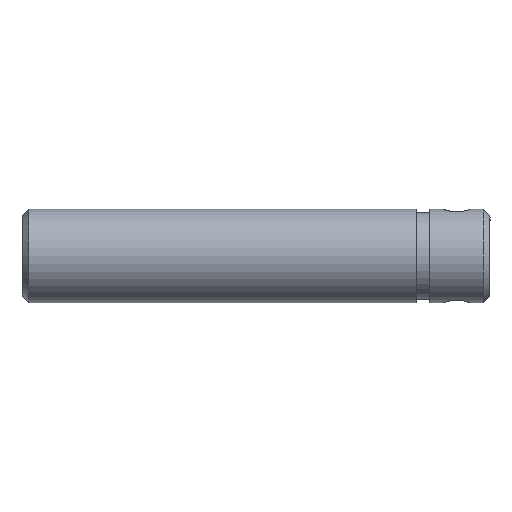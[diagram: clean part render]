
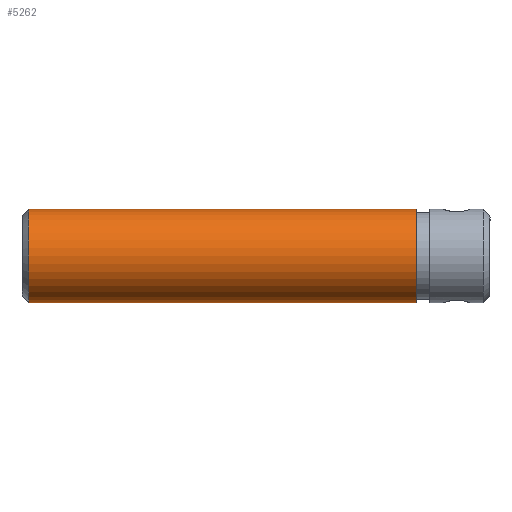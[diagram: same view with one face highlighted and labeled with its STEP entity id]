
A CAD part, left-side view. The second image highlights one B-rep face of the part: STEP entity #5262.
In plain terms, the highlighted cylindrical face has radius 7 mm (diameter 14 mm), a partial arc.
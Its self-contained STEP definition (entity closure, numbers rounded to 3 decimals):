
#48 = VERTEX_POINT ( 'NONE', #3466 ) ;
#566 = EDGE_CURVE ( 'NONE', #48, #4037, #2944, .T. ) ;
#916 = VERTEX_POINT ( 'NONE', #5761 ) ;
#956 = CARTESIAN_POINT ( 'NONE',  ( 0., -49., 0. ) ) ;
#979 = VECTOR ( 'NONE', #4822, 1000. ) ;
#1048 = CARTESIAN_POINT ( 'NONE',  ( 0., -49., -7. ) ) ;
#1185 = DIRECTION ( 'NONE',  ( 0., -1., 0. ) ) ;
#1249 = AXIS2_PLACEMENT_3D ( 'NONE', #2843, #3325, #2363 ) ;
#1321 = DIRECTION ( 'NONE',  ( 0., -1., 0. ) ) ;
#1342 = CIRCLE ( 'NONE', #3406, 7. ) ;
#1427 = DIRECTION ( 'NONE',  ( 0., 0., 1. ) ) ;
#1791 = CARTESIAN_POINT ( 'NONE',  ( 0., 10.734, -7. ) ) ;
#2244 = LINE ( 'NONE', #4358, #979 ) ;
#2363 = DIRECTION ( 'NONE',  ( 0., 0., 1. ) ) ;
#2488 = ORIENTED_EDGE ( 'NONE', *, *, #4745, .T. ) ;
#2533 = CYLINDRICAL_SURFACE ( 'NONE', #1249, 7. ) ;
#2645 = VECTOR ( 'NONE', #1321, 1000. ) ;
#2843 = CARTESIAN_POINT ( 'NONE',  ( 0., 10.734, 0. ) ) ;
#2849 = FACE_OUTER_BOUND ( 'NONE', #5245, .T. ) ;
#2944 = LINE ( 'NONE', #1791, #2645 ) ;
#3325 = DIRECTION ( 'NONE',  ( 0., 1., 0. ) ) ;
#3406 = AXIS2_PLACEMENT_3D ( 'NONE', #4016, #1185, #4485 ) ;
#3466 = CARTESIAN_POINT ( 'NONE',  ( 0., 9., -7. ) ) ;
#3593 = ORIENTED_EDGE ( 'NONE', *, *, #3682, .T. ) ;
#3682 = EDGE_CURVE ( 'NONE', #4037, #916, #5303, .T. ) ;
#4016 = CARTESIAN_POINT ( 'NONE',  ( 0., 9., 0. ) ) ;
#4037 = VERTEX_POINT ( 'NONE', #1048 ) ;
#4103 = ORIENTED_EDGE ( 'NONE', *, *, #566, .T. ) ;
#4181 = VERTEX_POINT ( 'NONE', #4926 ) ;
#4258 = DIRECTION ( 'NONE',  ( 0., 1., 0. ) ) ;
#4358 = CARTESIAN_POINT ( 'NONE',  ( 0., 10.734, 7. ) ) ;
#4485 = DIRECTION ( 'NONE',  ( 0., 0., 1. ) ) ;
#4745 = EDGE_CURVE ( 'NONE', #4181, #48, #1342, .T. ) ;
#4822 = DIRECTION ( 'NONE',  ( 0., 1., 0. ) ) ;
#4890 = ORIENTED_EDGE ( 'NONE', *, *, #5479, .T. ) ;
#4926 = CARTESIAN_POINT ( 'NONE',  ( 0., 9., 7. ) ) ;
#5245 = EDGE_LOOP ( 'NONE', ( #4890, #2488, #4103, #3593 ) ) ;
#5262 = ADVANCED_FACE ( 'NONE', ( #2849 ), #2533, .T. ) ;
#5303 = CIRCLE ( 'NONE', #5714, 7. ) ;
#5479 = EDGE_CURVE ( 'NONE', #916, #4181, #2244, .T. ) ;
#5714 = AXIS2_PLACEMENT_3D ( 'NONE', #956, #4258, #1427 ) ;
#5761 = CARTESIAN_POINT ( 'NONE',  ( 0., -49., 7. ) ) ;
